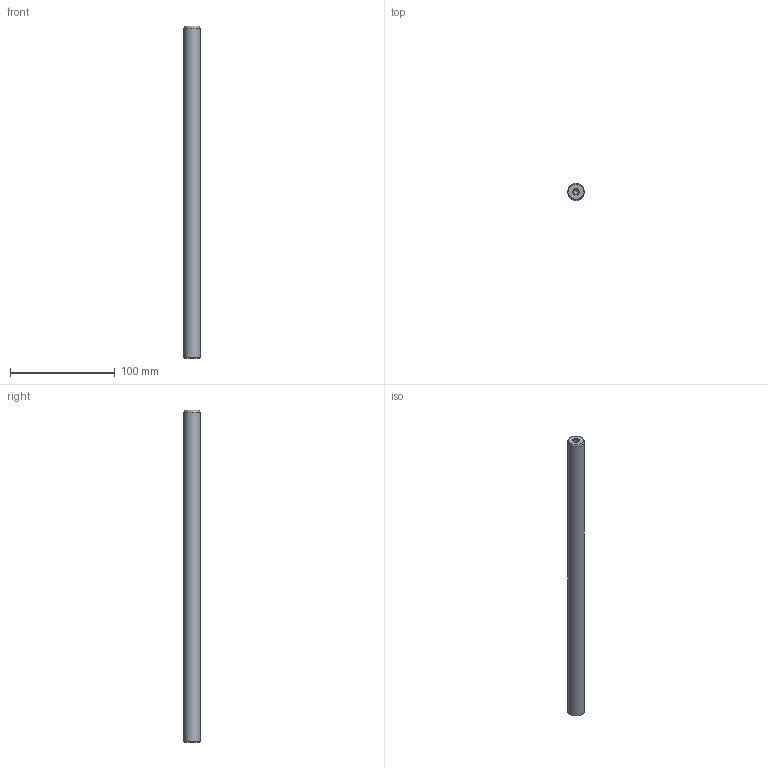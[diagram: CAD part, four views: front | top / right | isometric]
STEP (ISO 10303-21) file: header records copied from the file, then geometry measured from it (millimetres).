
FILE_DESCRIPTION( ( 'STEP AP214' ), '1' );
FILE_NAME( 'U:/Etudes/Top Solid/BIBLIO_Fournisseur/Colonnes UG/Ø16x317.step', '2004-12-22T12:37:41', ( ' ' ), ( ' ' ), 'XStep 1.0', ' ', ' ' );
FILE_SCHEMA( ( 'automotive_design' ) );
Length unit declared in the file: metre
Products named in the file (1): 1
Bounding box: 16 x 16 x 317 mm (x, y, z)
Volume: 63080.2 mm3; surface area: 16766.2 mm2
Topology: 1 solids, 1 shells, 13 faces, 27 edges, 16 vertices
Faces by surface type: cone 6, cylinder 5, plane 2
Full cylindrical faces by diameter (mm): 4.918 x4, 16 x1
Entity records: 382 total; most frequent: DIRECTION 52, CARTESIAN_POINT 40, AXIS2_PLACEMENT_3D 26, EDGE_LOOP 24, ORIENTED_EDGE 24, FACE_OUTER_BOUND 18, VERTEX_POINT 14, STYLED_ITEM 13
